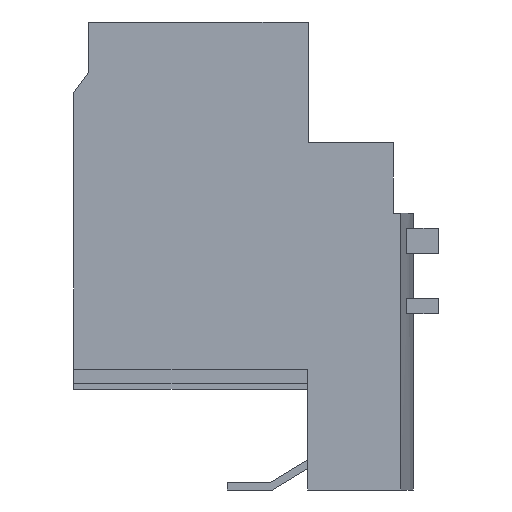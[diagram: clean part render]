
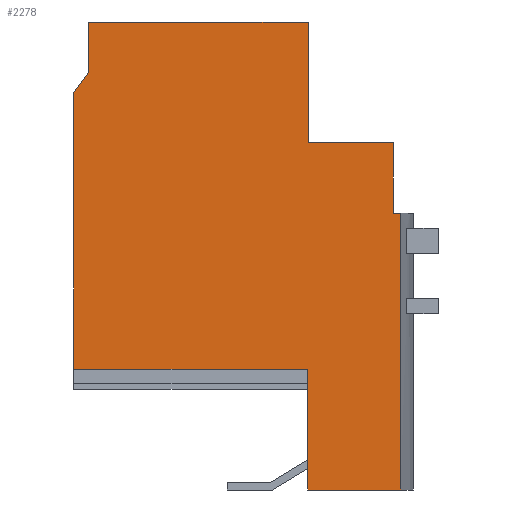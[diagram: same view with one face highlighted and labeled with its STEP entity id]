
A CAD part, left-side view. The second image highlights one B-rep face of the part: STEP entity #2278.
In plain terms, the highlighted planar face has unit normal (-1, 0, 0).
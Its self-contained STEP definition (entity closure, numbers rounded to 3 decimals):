
#1=DIRECTION('',(0.,0.,-1.));
#2=VECTOR('',#1,10.);
#3=CARTESIAN_POINT('',(-22.5,-218.01,24.));
#4=LINE('',#3,#2);
#5=DIRECTION('',(0.,-1.,0.));
#6=VECTOR('',#5,43.6);
#7=CARTESIAN_POINT('',(-22.5,-218.01,24.));
#8=LINE('',#7,#6);
#9=DIRECTION('',(0.,0.,-1.));
#10=VECTOR('',#9,24.);
#11=CARTESIAN_POINT('',(-22.5,-261.61,24.));
#12=LINE('',#11,#10);
#13=DIRECTION('',(0.,-1.,0.));
#14=VECTOR('',#13,16.9);
#15=CARTESIAN_POINT('',(-22.5,-261.61,0.));
#16=LINE('',#15,#14);
#17=DIRECTION('',(0.,0.,-1.));
#18=VECTOR('',#17,14.);
#19=CARTESIAN_POINT('',(-22.5,-278.51,0.));
#20=LINE('',#19,#18);
#21=DIRECTION('',(0.,1.,0.));
#22=VECTOR('',#21,1.5);
#23=CARTESIAN_POINT('',(-22.5,-280.01,-14.));
#24=LINE('',#23,#22);
#25=DIRECTION('',(0.,0.,-1.));
#26=VECTOR('',#25,55.);
#27=CARTESIAN_POINT('',(-22.5,-280.01,-14.));
#28=LINE('',#27,#26);
#29=DIRECTION('',(0.,1.,0.));
#30=VECTOR('',#29,18.5);
#31=CARTESIAN_POINT('',(-22.5,-280.01,-69.));
#32=LINE('',#31,#30);
#33=DIRECTION('',(0.,-1.,0.));
#34=VECTOR('',#33,46.5);
#35=CARTESIAN_POINT('',(-22.5,-215.01,-45.));
#36=LINE('',#35,#34);
#37=DIRECTION('',(0.,0.,1.));
#38=VECTOR('',#37,55.);
#39=CARTESIAN_POINT('',(-22.5,-215.01,-45.));
#40=LINE('',#39,#38);
#41=DIRECTION('',(0.,0.6,-0.8));
#42=VECTOR('',#41,5.);
#43=CARTESIAN_POINT('',(-22.5,-218.01,14.));
#44=LINE('',#43,#42);
#173=DIRECTION('',(0.,0.,-1.));
#174=VECTOR('',#173,24.);
#175=CARTESIAN_POINT('',(-22.5,-261.51,-45.));
#176=LINE('',#175,#174);
#1695=CARTESIAN_POINT('',(-22.5,-261.61,24.));
#1696=CARTESIAN_POINT('',(-22.5,-261.61,0.));
#1697=VERTEX_POINT('',#1695);
#1698=VERTEX_POINT('',#1696);
#1703=CARTESIAN_POINT('',(-22.5,-261.51,-69.));
#1705=VERTEX_POINT('',#1703);
#2017=CARTESIAN_POINT('',(-22.5,-215.01,-45.));
#2018=CARTESIAN_POINT('',(-22.5,-261.51,-45.));
#2019=VERTEX_POINT('',#2017);
#2020=VERTEX_POINT('',#2018);
#2045=CARTESIAN_POINT('',(-22.5,-280.01,-69.));
#2047=VERTEX_POINT('',#2045);
#2049=CARTESIAN_POINT('',(-22.5,-278.51,0.));
#2050=CARTESIAN_POINT('',(-22.5,-278.51,-14.));
#2051=VERTEX_POINT('',#2049);
#2052=VERTEX_POINT('',#2050);
#2053=CARTESIAN_POINT('',(-22.5,-280.01,-14.));
#2054=VERTEX_POINT('',#2053);
#2219=CARTESIAN_POINT('',(-22.5,-218.01,24.));
#2220=CARTESIAN_POINT('',(-22.5,-218.01,14.));
#2221=VERTEX_POINT('',#2219);
#2222=VERTEX_POINT('',#2220);
#2223=CARTESIAN_POINT('',(-22.5,-215.01,10.));
#2224=VERTEX_POINT('',#2223);
#2247=CARTESIAN_POINT('',(-22.5,0.,0.));
#2248=DIRECTION('',(1.,0.,0.));
#2249=DIRECTION('',(0.,-1.,0.));
#2250=AXIS2_PLACEMENT_3D('',#2247,#2248,#2249);
#2251=PLANE('',#2250);
#2253=ORIENTED_EDGE('',*,*,#2252,.F.);
#2255=ORIENTED_EDGE('',*,*,#2254,.T.);
#2257=ORIENTED_EDGE('',*,*,#2256,.T.);
#2259=ORIENTED_EDGE('',*,*,#2258,.T.);
#2261=ORIENTED_EDGE('',*,*,#2260,.T.);
#2263=ORIENTED_EDGE('',*,*,#2262,.F.);
#2265=ORIENTED_EDGE('',*,*,#2264,.T.);
#2267=ORIENTED_EDGE('',*,*,#2266,.T.);
#2269=ORIENTED_EDGE('',*,*,#2268,.F.);
#2271=ORIENTED_EDGE('',*,*,#2270,.F.);
#2273=ORIENTED_EDGE('',*,*,#2272,.T.);
#2275=ORIENTED_EDGE('',*,*,#2274,.F.);
#2276=EDGE_LOOP('',(#2253,#2255,#2257,#2259,#2261,#2263,#2265,#2267,#2269,#2271,
#2273,#2275));
#2277=FACE_OUTER_BOUND('',#2276,.F.);
#2278=ADVANCED_FACE('',(#2277),#2251,.F.);
#2252=EDGE_CURVE('',#2221,#2222,#4,.T.);
#2254=EDGE_CURVE('',#2221,#1697,#8,.T.);
#2256=EDGE_CURVE('',#1697,#1698,#12,.T.);
#2258=EDGE_CURVE('',#1698,#2051,#16,.T.);
#2260=EDGE_CURVE('',#2051,#2052,#20,.T.);
#2262=EDGE_CURVE('',#2054,#2052,#24,.T.);
#2264=EDGE_CURVE('',#2054,#2047,#28,.T.);
#2266=EDGE_CURVE('',#2047,#1705,#32,.T.);
#2268=EDGE_CURVE('',#2020,#1705,#176,.T.);
#2270=EDGE_CURVE('',#2019,#2020,#36,.T.);
#2272=EDGE_CURVE('',#2019,#2224,#40,.T.);
#2274=EDGE_CURVE('',#2222,#2224,#44,.T.);
